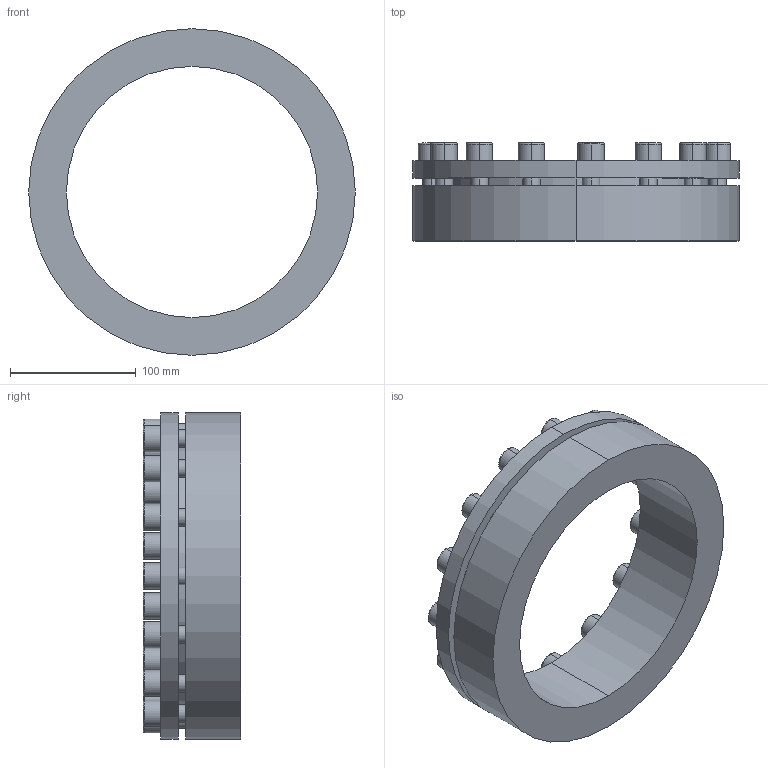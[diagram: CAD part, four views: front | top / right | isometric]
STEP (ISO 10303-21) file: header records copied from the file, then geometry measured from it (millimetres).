
FILE_DESCRIPTION (( 'STEP AP203' ), '1' );
FILE_NAME ('PL-H3 200-260.STEP', '2021-10-23T01:11:37', ( '' ), ( '' ), 'SwSTEP 2.0', 'SolidWorks 2018', '' );
FILE_SCHEMA (( 'CONFIG_CONTROL_DESIGN' ));
Length unit declared in the file: millimetre
Products named in the file (1): PL-H3 200-260
Bounding box: 260 x 78 x 260 mm (x, y, z)
Volume: 1353851.4 mm3; surface area: 187653.7 mm2
Topology: 1 solids, 1 shells, 222 faces, 534 edges, 346 vertices
Faces by surface type: plane 124, cylinder 68, torus 30
Entity records: 6615 total; most frequent: DIRECTION 1176, CARTESIAN_POINT 1103, ORIENTED_EDGE 1068, EDGE_CURVE 534, AXIS2_PLACEMENT_3D 419, VERTEX_POINT 346, LINE 338, VECTOR 338
